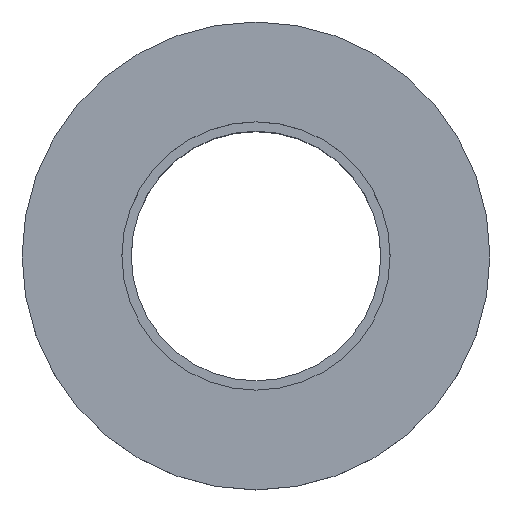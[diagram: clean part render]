
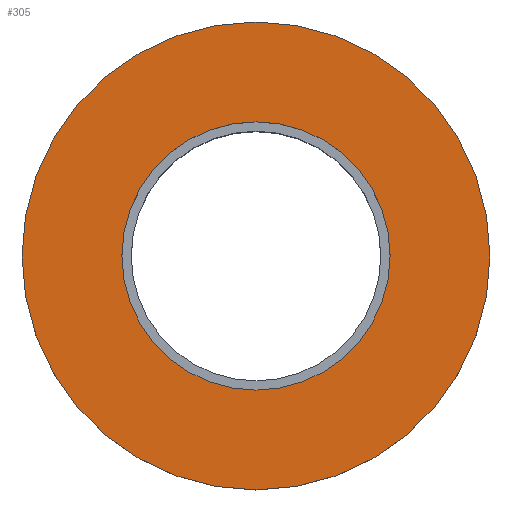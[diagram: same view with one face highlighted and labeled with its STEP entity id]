
A CAD part, top view. The second image highlights one B-rep face of the part: STEP entity #305.
In plain terms, the highlighted planar face has unit normal (0, 0, 1).
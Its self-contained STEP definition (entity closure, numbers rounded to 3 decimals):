
#36 = VERTEX_POINT ( 'NONE', #39 ) ;
#39 = CARTESIAN_POINT ( 'NONE',  ( -8.6, 0., 0. ) ) ;
#42 = FACE_OUTER_BOUND ( 'NONE', #75, .T. ) ;
#54 = AXIS2_PLACEMENT_3D ( 'NONE', #242, #395, #91 ) ;
#75 = EDGE_LOOP ( 'NONE', ( #381, #247 ) ) ;
#91 = DIRECTION ( 'NONE',  ( 1., 0., 0. ) ) ;
#108 = AXIS2_PLACEMENT_3D ( 'NONE', #482, #142, #321 ) ;
#135 = AXIS2_PLACEMENT_3D ( 'NONE', #214, #285, #399 ) ;
#137 = DIRECTION ( 'NONE',  ( 1., 0., 0. ) ) ;
#142 = DIRECTION ( 'NONE',  ( 0., 0., 1. ) ) ;
#154 = CIRCLE ( 'NONE', #379, 15. ) ;
#164 = VERTEX_POINT ( 'NONE', #383 ) ;
#194 = EDGE_CURVE ( 'NONE', #377, #36, #200, .T. ) ;
#200 = CIRCLE ( 'NONE', #54, 8.6 ) ;
#210 = DIRECTION ( 'NONE',  ( 0., 0., 1. ) ) ;
#211 = ORIENTED_EDGE ( 'NONE', *, *, #194, .F. ) ;
#214 = CARTESIAN_POINT ( 'NONE',  ( 0., 15., 0. ) ) ;
#242 = CARTESIAN_POINT ( 'NONE',  ( 0., 0., 0. ) ) ;
#247 = ORIENTED_EDGE ( 'NONE', *, *, #363, .T. ) ;
#276 = ORIENTED_EDGE ( 'NONE', *, *, #284, .F. ) ;
#281 = CARTESIAN_POINT ( 'NONE',  ( 8.6, 0., 0. ) ) ;
#284 = EDGE_CURVE ( 'NONE', #36, #377, #488, .T. ) ;
#285 = DIRECTION ( 'NONE',  ( 0., 0., 1. ) ) ;
#305 = ADVANCED_FACE ( 'NONE', ( #42, #319 ), #361, .T. ) ;
#319 = FACE_BOUND ( 'NONE', #425, .T. ) ;
#321 = DIRECTION ( 'NONE',  ( 1., 0., 0. ) ) ;
#326 = CARTESIAN_POINT ( 'NONE',  ( 0., 0., 0. ) ) ;
#361 = PLANE ( 'NONE',  #135 ) ;
#363 = EDGE_CURVE ( 'NONE', #463, #164, #154, .T. ) ;
#373 = DIRECTION ( 'NONE',  ( 0., 0., 1. ) ) ;
#377 = VERTEX_POINT ( 'NONE', #281 ) ;
#379 = AXIS2_PLACEMENT_3D ( 'NONE', #326, #210, #137 ) ;
#381 = ORIENTED_EDGE ( 'NONE', *, *, #423, .T. ) ;
#383 = CARTESIAN_POINT ( 'NONE',  ( 15., 0., 0. ) ) ;
#392 = AXIS2_PLACEMENT_3D ( 'NONE', #451, #373, #487 ) ;
#395 = DIRECTION ( 'NONE',  ( 0., 0., 1. ) ) ;
#399 = DIRECTION ( 'NONE',  ( 1., 0., 0. ) ) ;
#415 = CIRCLE ( 'NONE', #392, 15. ) ;
#423 = EDGE_CURVE ( 'NONE', #164, #463, #415, .T. ) ;
#425 = EDGE_LOOP ( 'NONE', ( #211, #276 ) ) ;
#451 = CARTESIAN_POINT ( 'NONE',  ( 0., 0., 0. ) ) ;
#463 = VERTEX_POINT ( 'NONE', #494 ) ;
#482 = CARTESIAN_POINT ( 'NONE',  ( 0., 0., 0. ) ) ;
#487 = DIRECTION ( 'NONE',  ( 1., 0., 0. ) ) ;
#488 = CIRCLE ( 'NONE', #108, 8.6 ) ;
#494 = CARTESIAN_POINT ( 'NONE',  ( -15., 0., 0. ) ) ;
